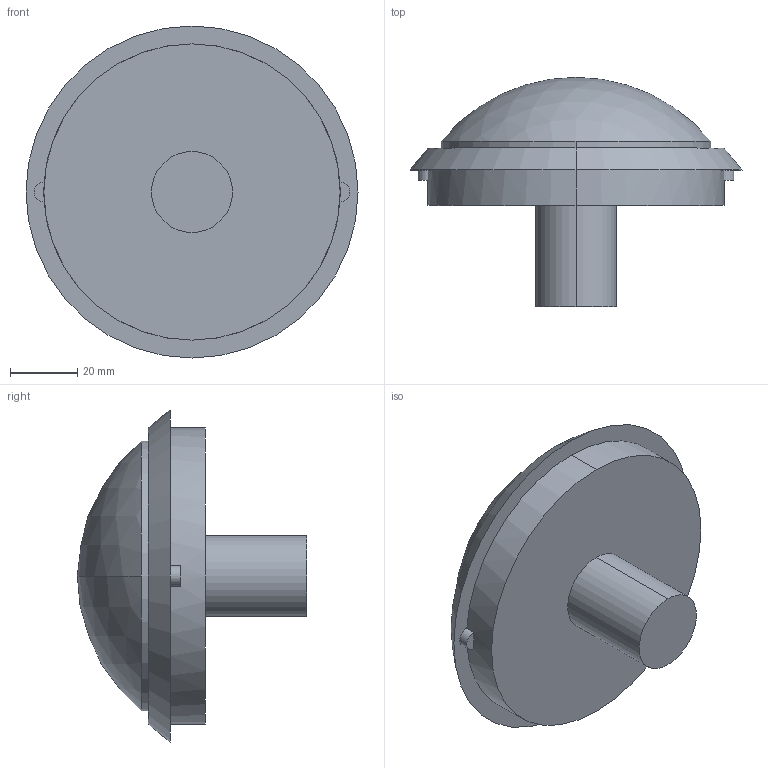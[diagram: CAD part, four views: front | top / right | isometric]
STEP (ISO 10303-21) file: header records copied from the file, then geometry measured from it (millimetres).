
FILE_DESCRIPTION (( 'STEP AP214' ), '1' );
FILE_NAME ('100mm_Button.STEP', '2018-05-10T20:41:27', ( '' ), ( '' ), 'SwSTEP 2.0', 'SolidWorks 2015', '' );
FILE_SCHEMA (( 'AUTOMOTIVE_DESIGN' ));
Length unit declared in the file: millimetre
Products named in the file (1): 100mm_Button
Bounding box: 98.5 x 68 x 98.5 mm (x, y, z)
Volume: 183121.9 mm3; surface area: 33014.3 mm2
Topology: 2 solids, 2 shells, 23 faces, 52 edges, 35 vertices
Faces by surface type: cylinder 12, plane 7, cone 2, sphere 2
Entity records: 768 total; most frequent: DIRECTION 136, CARTESIAN_POINT 111, ORIENTED_EDGE 104, AXIS2_PLACEMENT_3D 60, EDGE_CURVE 52, CIRCLE 36, VERTEX_POINT 35, EDGE_LOOP 25
